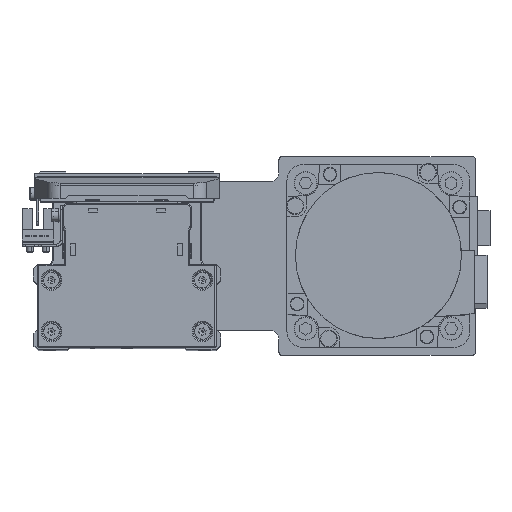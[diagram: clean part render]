
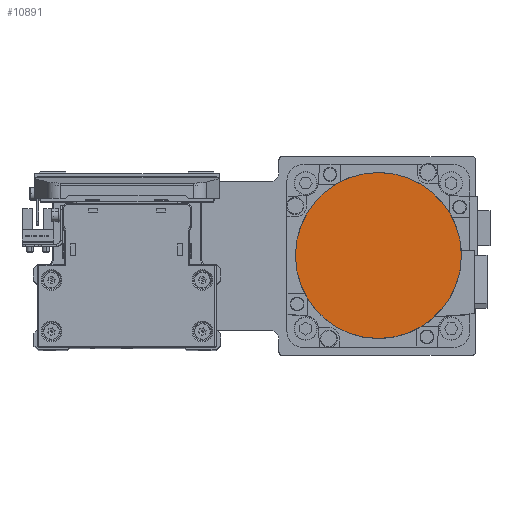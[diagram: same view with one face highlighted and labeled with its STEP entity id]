
A CAD part, top view. The second image highlights one B-rep face of the part: STEP entity #10891.
In plain terms, the highlighted planar face has unit normal (0, 0, 1) as drawn and (0, 0, -1) by its records, which use the part's own axes.
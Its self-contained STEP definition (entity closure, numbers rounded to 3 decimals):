
#153 = CARTESIAN_POINT ( 'NONE',  ( 0., 0., -122.2 ) ) ;
#259 = DIRECTION ( 'NONE',  ( 0., 1., 0. ) ) ;
#956 = AXIS2_PLACEMENT_3D ( 'NONE', #18204, #30215, #3243 ) ;
#3243 = DIRECTION ( 'NONE',  ( 1., 0., 0. ) ) ;
#5474 = CIRCLE ( 'NONE', #27500, 36.3 ) ;
#6187 = PLANE ( 'NONE',  #956 ) ;
#6322 = EDGE_CURVE ( 'NONE', #27750, #12579, #24128, .T. ) ;
#7135 = AXIS2_PLACEMENT_3D ( 'NONE', #15206, #27227, #259 ) ;
#10891 = ADVANCED_FACE ( 'NONE', ( #33178 ), #6187, .F. ) ;
#12149 = DIRECTION ( 'NONE',  ( 0., 0., 1. ) ) ;
#12276 = EDGE_CURVE ( 'NONE', #12579, #27750, #5474, .T. ) ;
#12579 = VERTEX_POINT ( 'NONE', #38648 ) ;
#15206 = CARTESIAN_POINT ( 'NONE',  ( 0., 0., -122.2 ) ) ;
#18204 = CARTESIAN_POINT ( 'NONE',  ( 0., 0., -122.2 ) ) ;
#24128 = CIRCLE ( 'NONE', #7135, 36.3 ) ;
#24173 = DIRECTION ( 'NONE',  ( 0., -1., 0. ) ) ;
#27227 = DIRECTION ( 'NONE',  ( 0., 0., 1. ) ) ;
#27500 = AXIS2_PLACEMENT_3D ( 'NONE', #153, #12149, #24173 ) ;
#27750 = VERTEX_POINT ( 'NONE', #28524 ) ;
#28524 = CARTESIAN_POINT ( 'NONE',  ( 0., 36.3, -122.2 ) ) ;
#30215 = DIRECTION ( 'NONE',  ( 0., 0., 1. ) ) ;
#33178 = FACE_OUTER_BOUND ( 'NONE', #34380, .T. ) ;
#33721 = ORIENTED_EDGE ( 'NONE', *, *, #6322, .F. ) ;
#34380 = EDGE_LOOP ( 'NONE', ( #33721, #38417 ) ) ;
#38417 = ORIENTED_EDGE ( 'NONE', *, *, #12276, .F. ) ;
#38648 = CARTESIAN_POINT ( 'NONE',  ( 0., -36.3, -122.2 ) ) ;
